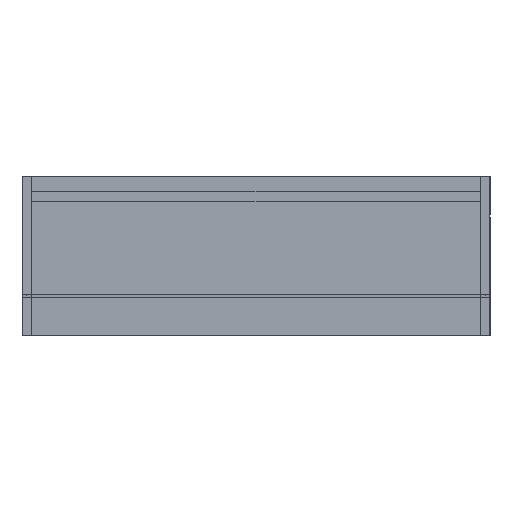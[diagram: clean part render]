
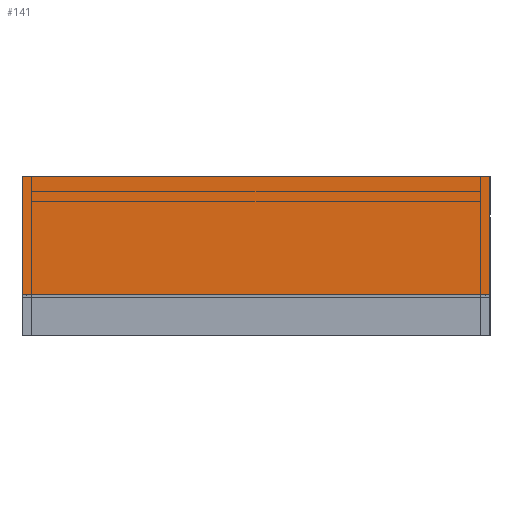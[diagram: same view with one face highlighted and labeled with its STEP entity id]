
A CAD part, left-side view. The second image highlights one B-rep face of the part: STEP entity #141.
In plain terms, the highlighted planar face has unit normal (-1, 0, 0).
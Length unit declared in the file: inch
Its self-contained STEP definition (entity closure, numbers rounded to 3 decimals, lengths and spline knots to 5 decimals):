
#141=ADVANCED_FACE('',(#363),#3531,.T.);
#363=FACE_OUTER_BOUND('',#607,.T.);
#607=EDGE_LOOP('',(#1138,#1139,#1140,#1141));
#1138=ORIENTED_EDGE('',*,*,#2115,.T.);
#1139=ORIENTED_EDGE('',*,*,#2026,.F.);
#1140=ORIENTED_EDGE('',*,*,#2114,.T.);
#1141=ORIENTED_EDGE('',*,*,#2108,.F.);
#2026=EDGE_CURVE('',#3151,#3152,#2602,.T.);
#2108=EDGE_CURVE('',#3200,#3198,#2684,.T.);
#2114=EDGE_CURVE('',#3151,#3198,#2690,.T.);
#2115=EDGE_CURVE('',#3200,#3152,#2691,.T.);
#2602=B_SPLINE_CURVE_WITH_KNOTS('',1,(#4625,#4626),.UNSPECIFIED.,.F.,.F.,
(2,2),(-55.,-31.5),.UNSPECIFIED.);
#2684=B_SPLINE_CURVE_WITH_KNOTS('',1,(#4789,#4790),.UNSPECIFIED.,.F.,.F.,
(2,2),(0.,23.5),.UNSPECIFIED.);
#2690=B_SPLINE_CURVE_WITH_KNOTS('',1,(#4801,#4802),.UNSPECIFIED.,.F.,.F.,
(2,2),(0.,5.9375),.UNSPECIFIED.);
#2691=B_SPLINE_CURVE_WITH_KNOTS('',1,(#4803,#4804),.UNSPECIFIED.,.F.,.F.,
(2,2),(0.,5.9375),.UNSPECIFIED.);
#3151=VERTEX_POINT('',#4562);
#3152=VERTEX_POINT('',#4563);
#3198=VERTEX_POINT('',#4609);
#3200=VERTEX_POINT('',#4611);
#3531=PLANE('',#3844);
#3844=AXIS2_PLACEMENT_3D('',#4550,#4069,$);
#4069=DIRECTION('',(-1.,0.,0.));
#4550=CARTESIAN_POINT('',(4601.35837,-238.85911,247.02664));
#4562=CARTESIAN_POINT('',(4601.35837,-215.35911,252.96414));
#4563=CARTESIAN_POINT('',(4601.35837,-238.85911,252.96414));
#4609=CARTESIAN_POINT('',(4601.35837,-215.35911,247.02664));
#4611=CARTESIAN_POINT('',(4601.35837,-238.85911,247.02664));
#4625=CARTESIAN_POINT('',(4601.35837,-215.35911,252.96414));
#4626=CARTESIAN_POINT('',(4601.35837,-238.85911,252.96414));
#4789=CARTESIAN_POINT('',(4601.35837,-238.85911,247.02664));
#4790=CARTESIAN_POINT('',(4601.35837,-215.35911,247.02664));
#4801=CARTESIAN_POINT('',(4601.35837,-215.35911,252.96414));
#4802=CARTESIAN_POINT('',(4601.35837,-215.35911,247.02664));
#4803=CARTESIAN_POINT('',(4601.35837,-238.85911,247.02664));
#4804=CARTESIAN_POINT('',(4601.35837,-238.85911,252.96414));
